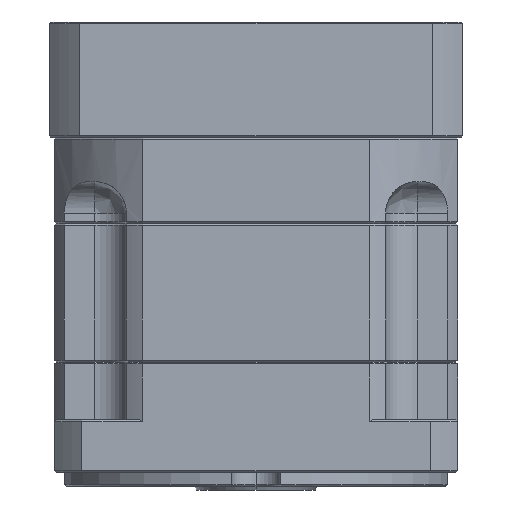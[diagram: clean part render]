
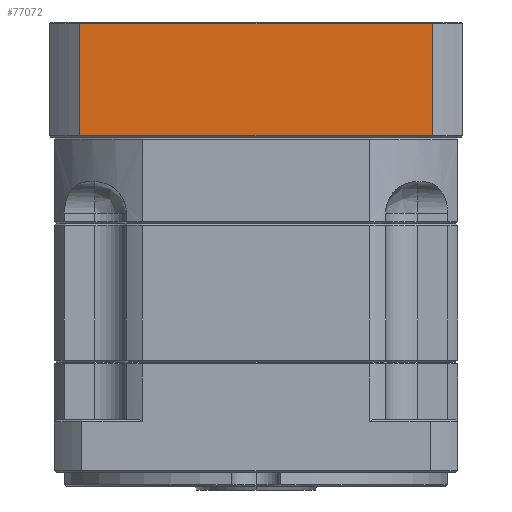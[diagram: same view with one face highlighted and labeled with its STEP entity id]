
A CAD part, left-side view. The second image highlights one B-rep face of the part: STEP entity #77072.
In plain terms, the highlighted planar face has unit normal (-1, 0, 0).
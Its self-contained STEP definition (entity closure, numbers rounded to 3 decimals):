
#7118 = DIRECTION ( 'NONE',  ( 0., -1., 0. ) ) ;
#8895 = FACE_OUTER_BOUND ( 'NONE', #27301, .T. ) ;
#11030 = DIRECTION ( 'NONE',  ( 1., 0., 0. ) ) ;
#11265 = VERTEX_POINT ( 'NONE', #103023 ) ;
#15237 = CARTESIAN_POINT ( 'NONE',  ( -203.201, 38.143, 72.769 ) ) ;
#20852 = VERTEX_POINT ( 'NONE', #56164 ) ;
#21831 = EDGE_CURVE ( 'NONE', #61034, #20852, #33121, .T. ) ;
#25759 = LINE ( 'NONE', #59591, #92861 ) ;
#27301 = EDGE_LOOP ( 'NONE', ( #87358, #54671, #99581, #40785 ) ) ;
#31269 = VECTOR ( 'NONE', #45130, 1000. ) ;
#33121 = LINE ( 'NONE', #91470, #56433 ) ;
#40702 = CARTESIAN_POINT ( 'NONE',  ( -203.201, 38.143, 105.269 ) ) ;
#40785 = ORIENTED_EDGE ( 'NONE', *, *, #70872, .F. ) ;
#45130 = DIRECTION ( 'NONE',  ( 0., -1., 0. ) ) ;
#46421 = VERTEX_POINT ( 'NONE', #15237 ) ;
#49650 = AXIS2_PLACEMENT_3D ( 'NONE', #63478, #11030, #72329 ) ;
#54671 = ORIENTED_EDGE ( 'NONE', *, *, #21831, .F. ) ;
#55969 = VECTOR ( 'NONE', #86668, 1000. ) ;
#56164 = CARTESIAN_POINT ( 'NONE',  ( -203.201, 138.647, 104.769 ) ) ;
#56433 = VECTOR ( 'NONE', #56995, 1000. ) ;
#56995 = DIRECTION ( 'NONE',  ( 0., 0., 1. ) ) ;
#59591 = CARTESIAN_POINT ( 'NONE',  ( -203.201, 138.647, 72.769 ) ) ;
#61034 = VERTEX_POINT ( 'NONE', #110168 ) ;
#63478 = CARTESIAN_POINT ( 'NONE',  ( -203.201, 138.647, 105.269 ) ) ;
#64589 = EDGE_CURVE ( 'NONE', #61034, #46421, #25759, .T. ) ;
#70872 = EDGE_CURVE ( 'NONE', #11265, #46421, #102436, .T. ) ;
#72329 = DIRECTION ( 'NONE',  ( 0., 1., 0. ) ) ;
#77072 = ADVANCED_FACE ( 'NONE', ( #8895 ), #89489, .F. ) ;
#79560 = CARTESIAN_POINT ( 'NONE',  ( -203.201, 138.647, 104.769 ) ) ;
#85268 = EDGE_CURVE ( 'NONE', #20852, #11265, #101092, .T. ) ;
#86668 = DIRECTION ( 'NONE',  ( 0., 0., -1. ) ) ;
#87358 = ORIENTED_EDGE ( 'NONE', *, *, #85268, .F. ) ;
#89489 = PLANE ( 'NONE',  #49650 ) ;
#91470 = CARTESIAN_POINT ( 'NONE',  ( -203.201, 138.647, 105.269 ) ) ;
#92861 = VECTOR ( 'NONE', #7118, 1000. ) ;
#99581 = ORIENTED_EDGE ( 'NONE', *, *, #64589, .T. ) ;
#101092 = LINE ( 'NONE', #79560, #31269 ) ;
#102436 = LINE ( 'NONE', #40702, #55969 ) ;
#103023 = CARTESIAN_POINT ( 'NONE',  ( -203.201, 38.143, 104.769 ) ) ;
#110168 = CARTESIAN_POINT ( 'NONE',  ( -203.201, 138.647, 72.769 ) ) ;
